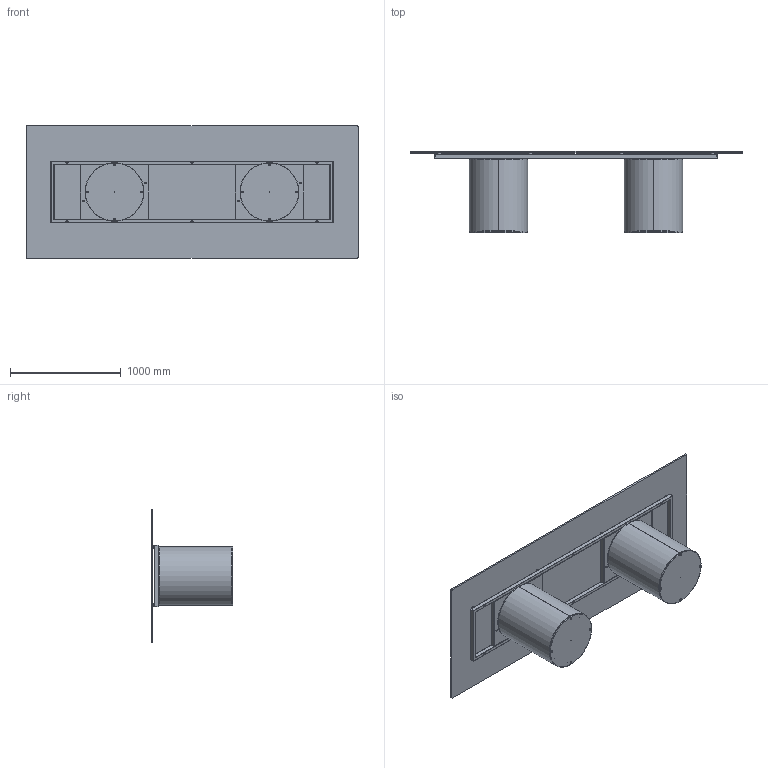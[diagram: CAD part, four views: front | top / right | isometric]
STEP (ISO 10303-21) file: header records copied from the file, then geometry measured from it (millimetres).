
FILE_DESCRIPTION (( 'STEP AP203' ), '1' );
FILE_NAME ('CI24G.STEP', '2024-08-08T07:09:34', ( '' ), ( '' ), 'SwSTEP 2.0', 'SolidWorks 2022', '' );
FILE_SCHEMA (( 'CONFIG_CONTROL_DESIGN' ));
Length unit declared in the file: millimetre
Products named in the file (11): 434070-00-PIEDINO TPV GOMMA NERO D. 30x8max18_filo estetico; CI24G; TTAV03_01-06-RING TUBO TELAIO UNIVERSALE X TAVOLI 300-340cm; C2B000000_01-00-struttura cilindro D.530mm; TTAV03-06-TELAIO UNIVERSALE X TAVOLI 300-340cm; C2B000000-03-CILINDRO BASE D.530mm_Normale; COLLO TELAIO UNIVERSALE TTAV03 CON FERRAMENTA_MTG TOP CRISTALLO VERNICIATO-CERAMICA; M8xXXmm_hex_M8X20mm; C2B000000_02-01-ZAVORRA IN FERRO D.530mm; C2XCRXX-00-Piani Rettangolari Cristallo_24 3000x1200; TTAV03_02-06-VASSOIO IRRIGIDIMENTO TELAIO UNIVERSALE RETTANGOLARE
Assembly tree (22 placements, depth 4):
  CI24G
    C2B000000-03-CILINDRO BASE D.530mm_Normale  x2
      C2B000000_01-00-struttura cilindro D.530mm
      C2B000000_02-01-ZAVORRA IN FERRO D.530mm
      M8xXXmm_hex_M8X20mm
    COLLO TELAIO UNIVERSALE TTAV03 CON FERRAMENTA_MTG TOP CRISTALLO VERNICIATO-CERAMICA
      TTAV03-06-TELAIO UNIVERSALE X TAVOLI 300-340cm
        TTAV03_01-06-RING TUBO TELAIO UNIVERSALE X TAVOLI 300-340cm
        TTAV03_02-06-VASSOIO IRRIGIDIMENTO TELAIO UNIVERSALE RETTANGOLARE  x2
      434070-00-PIEDINO TPV GOMMA NERO D. 30x8max18_filo estetico  x8
    C2XCRXX-00-Piani Rettangolari Cristallo_24 3000x1200
Bounding box: 3000 x 735 x 1200 mm (x, y, z)
Volume: 68674536.8 mm3; surface area: 16400634 mm2
Topology: 38 solids, 38 shells, 974 faces, 2204 edges, 1284 vertices
Faces by surface type: plane 446, cylinder 348, cone 96, torus 48, sphere 36
Entity records: 13561 total; most frequent: DIRECTION 2240, CARTESIAN_POINT 2041, ORIENTED_EDGE 1964, EDGE_CURVE 982, AXIS2_PLACEMENT_3D 828, VERTEX_POINT 597, VECTOR 584, LINE 584
